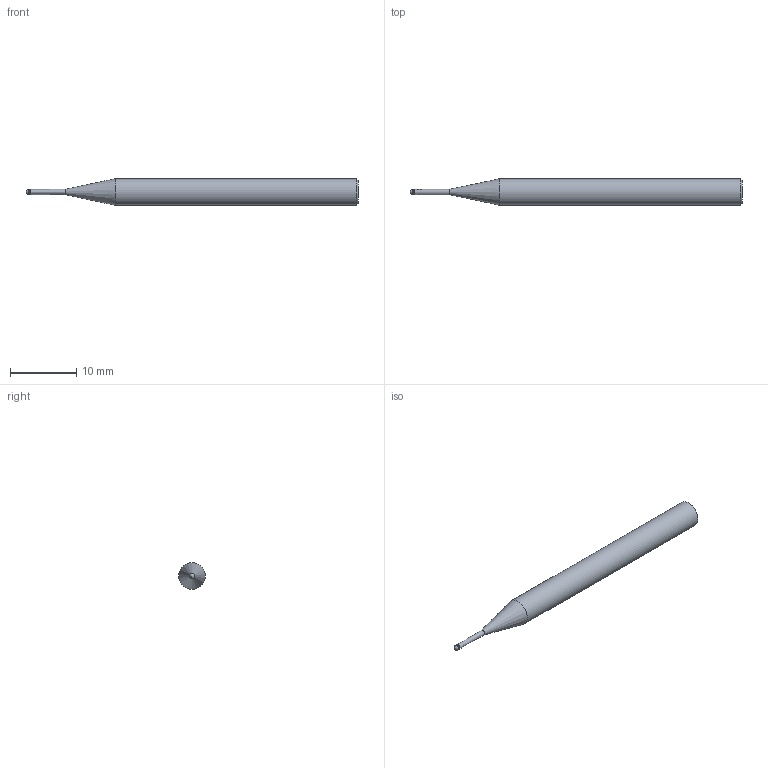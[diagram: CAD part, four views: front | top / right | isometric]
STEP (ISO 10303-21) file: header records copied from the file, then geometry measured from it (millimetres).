
FILE_DESCRIPTION(/* description */ (''),/* implementation_level */ '2;1');
FILE_NAME(/* name */ 'HGXPB2008-6-T0.4 0450.stp',/* time_stamp */ '2026-01-22T09:35:51+08:00',/* author */ (''),/* organization */ (''),/* preprocessor_version */ 'ST-DEVELOPER v16',/* originating_system */ 'SIEMENS PLM Software NX 10.0',/* authorisation */ '');
FILE_SCHEMA (('CONFIG_CONTROL_DESIGN'));
Length unit declared in the file: millimetre
Products named in the file (1): HGXPB2008-6-T0.4 0450_dxf
Bounding box: 50 x 4 x 4 mm (x, y, z)
Volume: 501.1 mm3; surface area: 544.1 mm2
Topology: 2 solids, 2 shells, 10 faces, 16 edges, 9 vertices
Faces by surface type: plane 3, cylinder 3, cone 3, bspline 1
Full cylindrical faces by diameter (mm): 0.76 x1, 0.8 x1, 4 x1
Entity records: 293 total; most frequent: CARTESIAN_POINT 55, DIRECTION 36, AXIS2_PLACEMENT_3D 18, EDGE_LOOP 16, ORIENTED_EDGE 16, FACE_BOUND 14, ADVANCED_FACE 10, VERTEX_POINT 9
